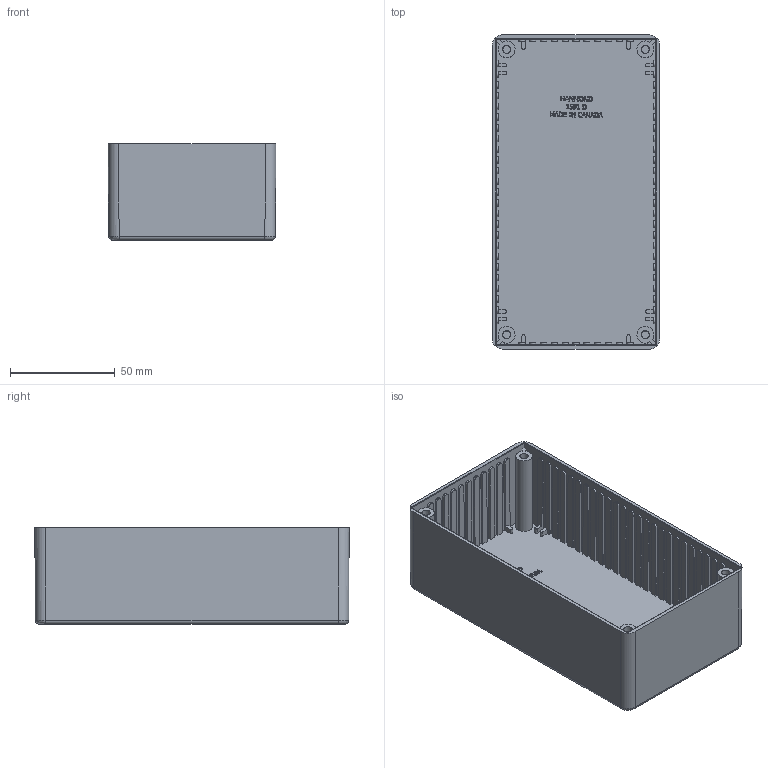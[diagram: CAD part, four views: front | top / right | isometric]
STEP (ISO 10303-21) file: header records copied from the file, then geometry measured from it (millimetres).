
FILE_DESCRIPTION((''),'2;1');
FILE_NAME('E:\Eng\Customer Service\Drawings\1591\1591D\1591D Box.stp','2006-02-20T09:47:15',('rboehler'),(''),'Autodesk Inventor 10','Autodesk Inventor 10','');
FILE_SCHEMA(('AUTOMOTIVE_DESIGN { 1 0 10303 214 1 1 1 1 }'));
Length unit declared in the file: millimetre
Products named in the file (1): 1591D Box
Bounding box: 80 x 150 x 46.2 mm (x, y, z)
Volume: 78401.8 mm3; surface area: 75931.1 mm2
Topology: 1 solids, 1 shells, 723 faces, 2031 edges, 1350 vertices
Faces by surface type: plane 391, bspline 274, cylinder 56, cone 2
Entity records: 25632 total; most frequent: CARTESIAN_POINT 7985, ORIENTED_EDGE 4054, DIRECTION 2943, EDGE_CURVE 2027, VECTOR 1627, LINE 1627, VERTEX_POINT 1350, EDGE_LOOP 767
